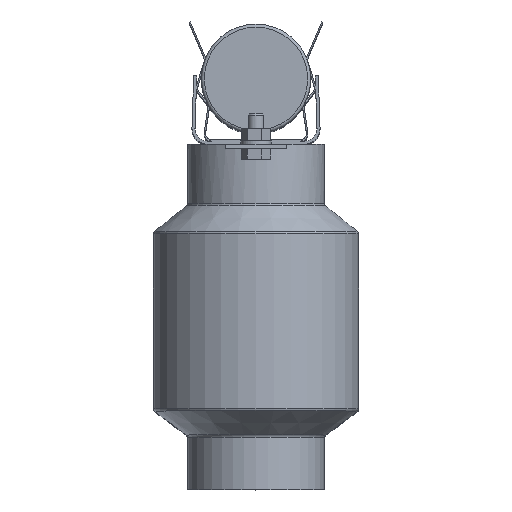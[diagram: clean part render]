
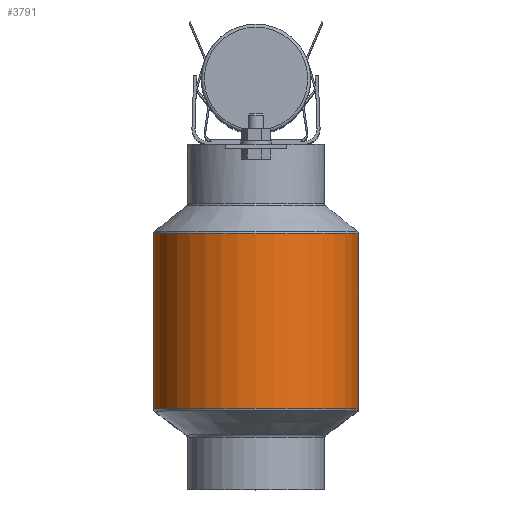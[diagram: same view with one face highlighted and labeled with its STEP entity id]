
A CAD part, top view. The second image highlights one B-rep face of the part: STEP entity #3791.
In plain terms, the highlighted cylindrical face has radius 67.5 mm (diameter 135 mm), a full revolution.
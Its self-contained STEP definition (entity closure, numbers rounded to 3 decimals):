
#172 = CIRCLE ( 'NONE', #925, 67.5 ) ;
#361 = CYLINDRICAL_SURFACE ( 'NONE', #4307, 67.5 ) ;
#753 = AXIS2_PLACEMENT_3D ( 'NONE', #1996, #5203, #2453 ) ;
#925 = AXIS2_PLACEMENT_3D ( 'NONE', #4790, #5275, #2501 ) ;
#1044 = VERTEX_POINT ( 'NONE', #2586 ) ;
#1730 = FACE_OUTER_BOUND ( 'NONE', #3281, .T. ) ;
#1760 = EDGE_CURVE ( 'NONE', #1044, #1044, #172, .T. ) ;
#1996 = CARTESIAN_POINT ( 'NONE',  ( 0., 52.963, 142.5 ) ) ;
#2371 = EDGE_LOOP ( 'NONE', ( #3369 ) ) ;
#2376 = CIRCLE ( 'NONE', #753, 67.5 ) ;
#2453 = DIRECTION ( 'NONE',  ( 1., 0., 0. ) ) ;
#2501 = DIRECTION ( 'NONE',  ( 1., 0., 0. ) ) ;
#2586 = CARTESIAN_POINT ( 'NONE',  ( 67.5, 168.106, 142.5 ) ) ;
#2609 = CARTESIAN_POINT ( 'NONE',  ( 67.5, 52.963, 142.5 ) ) ;
#2910 = CARTESIAN_POINT ( 'NONE',  ( 0., 0., 142.5 ) ) ;
#3024 = VERTEX_POINT ( 'NONE', #2609 ) ;
#3281 = EDGE_LOOP ( 'NONE', ( #4211 ) ) ;
#3369 = ORIENTED_EDGE ( 'NONE', *, *, #3473, .T. ) ;
#3473 = EDGE_CURVE ( 'NONE', #3024, #3024, #2376, .T. ) ;
#3791 = ADVANCED_FACE ( 'NONE', ( #1730, #4025 ), #361, .T. ) ;
#4025 = FACE_OUTER_BOUND ( 'NONE', #2371, .T. ) ;
#4211 = ORIENTED_EDGE ( 'NONE', *, *, #1760, .T. ) ;
#4307 = AXIS2_PLACEMENT_3D ( 'NONE', #2910, #5673, #5215 ) ;
#4790 = CARTESIAN_POINT ( 'NONE',  ( 0., 168.106, 142.5 ) ) ;
#5203 = DIRECTION ( 'NONE',  ( 0., 1., 0. ) ) ;
#5215 = DIRECTION ( 'NONE',  ( -1., 0., 0. ) ) ;
#5275 = DIRECTION ( 'NONE',  ( 0., -1., 0. ) ) ;
#5673 = DIRECTION ( 'NONE',  ( 0., -1., 0. ) ) ;
